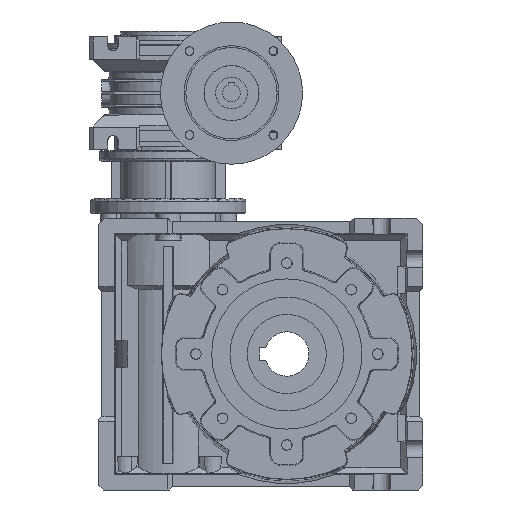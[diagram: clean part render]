
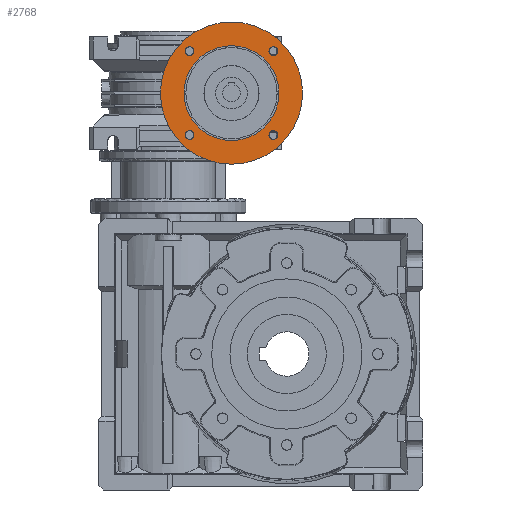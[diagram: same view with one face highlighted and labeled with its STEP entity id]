
A CAD part, left-side view. The second image highlights one B-rep face of the part: STEP entity #2768.
In plain terms, the highlighted planar face has unit normal (-1, 0, 0).
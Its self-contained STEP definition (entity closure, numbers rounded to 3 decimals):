
#2768 = ADVANCED_FACE( 'NONE', ( #6635, #6636, #6637, #6638, #6639, #6640 ), #6641, .T. );
#6635 = FACE_OUTER_BOUND( '', #11961, .T. );
#6636 = FACE_BOUND( '', #11962, .T. );
#6637 = FACE_BOUND( '', #11963, .T. );
#6638 = FACE_BOUND( '', #11964, .T. );
#6639 = FACE_BOUND( '', #11965, .T. );
#6640 = FACE_BOUND( '', #11966, .T. );
#6641 = PLANE( '', #11967 );
#11961 = EDGE_LOOP( '', ( #21650 ) );
#11962 = EDGE_LOOP( '', ( #21651 ) );
#11963 = EDGE_LOOP( '', ( #21652 ) );
#11964 = EDGE_LOOP( '', ( #21653 ) );
#11965 = EDGE_LOOP( '', ( #21654 ) );
#11966 = EDGE_LOOP( '', ( #21655 ) );
#11967 = AXIS2_PLACEMENT_3D( '', #21656, #21657, #21658 );
#21650 = ORIENTED_EDGE( '', *, *, #34363, .T. );
#21651 = ORIENTED_EDGE( '', *, *, #34364, .T. );
#21652 = ORIENTED_EDGE( '', *, *, #34365, .T. );
#21653 = ORIENTED_EDGE( '', *, *, #34366, .T. );
#21654 = ORIENTED_EDGE( '', *, *, #31663, .T. );
#21655 = ORIENTED_EDGE( '', *, *, #32105, .T. );
#21656 = CARTESIAN_POINT( '', ( -70., 7., 76. ) );
#21657 = DIRECTION( '', ( -1., 0., 0. ) );
#21658 = DIRECTION( '', ( 0., 0., 1. ) );
#31663 = EDGE_CURVE( 'NONE', #37982, #37982, #37983, .F. );
#32105 = EDGE_CURVE( 'NONE', #38746, #38746, #38747, .F. );
#34363 = EDGE_CURVE( 'NONE', #42428, #42428, #42429, .T. );
#34364 = EDGE_CURVE( 'NONE', #42430, #42430, #42431, .F. );
#34365 = EDGE_CURVE( 'NONE', #42432, #42432, #42433, .F. );
#34366 = EDGE_CURVE( 'NONE', #42434, #42434, #42435, .F. );
#37982 = VERTEX_POINT( '', #47311 );
#37983 = CIRCLE( '', #47312, 2.796 );
#38746 = VERTEX_POINT( '', #48698 );
#38747 = CIRCLE( '', #48699, 30. );
#42428 = VERTEX_POINT( '', #56451 );
#42429 = CIRCLE( '', #56452, 44.974 );
#42430 = VERTEX_POINT( '', #56453 );
#42431 = CIRCLE( '', #56454, 2.796 );
#42432 = VERTEX_POINT( '', #56455 );
#42433 = CIRCLE( '', #56456, 2.796 );
#42434 = VERTEX_POINT( '', #56457 );
#42435 = CIRCLE( '', #56458, 2.796 );
#47311 = CARTESIAN_POINT( '', ( -70., -66.517, 105.313 ) );
#47312 = AXIS2_PLACEMENT_3D( '', #65439, #65440, #65441 );
#48698 = CARTESIAN_POINT( '', ( -70., -40., 106. ) );
#48699 = AXIS2_PLACEMENT_3D( '', #65874, #65875, #65876 );
#56451 = CARTESIAN_POINT( '', ( -70., -40., 120.974 ) );
#56452 = AXIS2_PLACEMENT_3D( '', #68405, #68406, #68407 );
#56453 = CARTESIAN_POINT( '', ( -70., -13.483, 105.313 ) );
#56454 = AXIS2_PLACEMENT_3D( '', #68408, #68409, #68410 );
#56455 = CARTESIAN_POINT( '', ( -70., -66.517, 52.28 ) );
#56456 = AXIS2_PLACEMENT_3D( '', #68411, #68412, #68413 );
#56457 = CARTESIAN_POINT( '', ( -70., -13.483, 52.28 ) );
#56458 = AXIS2_PLACEMENT_3D( '', #68414, #68415, #68416 );
#65439 = CARTESIAN_POINT( '', ( -70., -66.517, 102.517 ) );
#65440 = DIRECTION( '', ( -1., 0., 0. ) );
#65441 = DIRECTION( '', ( 0., 0., 1. ) );
#65874 = CARTESIAN_POINT( '', ( -70., -40., 76. ) );
#65875 = DIRECTION( '', ( -1., 0., 0. ) );
#65876 = DIRECTION( '', ( 0., 0., 1. ) );
#68405 = CARTESIAN_POINT( '', ( -70., -40., 76. ) );
#68406 = DIRECTION( '', ( -1., 0., 0. ) );
#68407 = DIRECTION( '', ( 0., 0., 1. ) );
#68408 = CARTESIAN_POINT( '', ( -70., -13.483, 102.517 ) );
#68409 = DIRECTION( '', ( -1., 0., 0. ) );
#68410 = DIRECTION( '', ( 0., 0., 1. ) );
#68411 = CARTESIAN_POINT( '', ( -70., -66.517, 49.483 ) );
#68412 = DIRECTION( '', ( -1., 0., 0. ) );
#68413 = DIRECTION( '', ( 0., 0., 1. ) );
#68414 = CARTESIAN_POINT( '', ( -70., -13.483, 49.483 ) );
#68415 = DIRECTION( '', ( -1., 0., 0. ) );
#68416 = DIRECTION( '', ( 0., 0., 1. ) );
